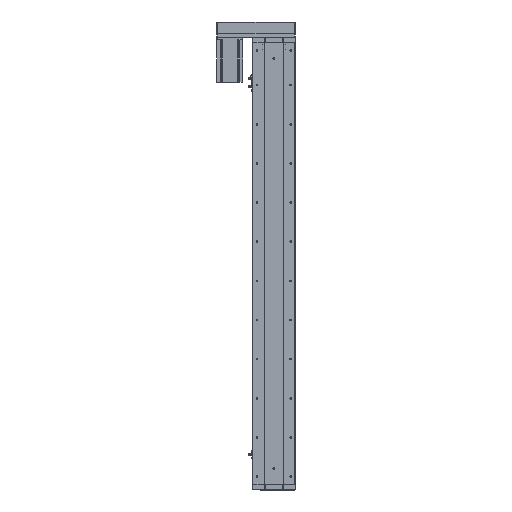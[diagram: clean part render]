
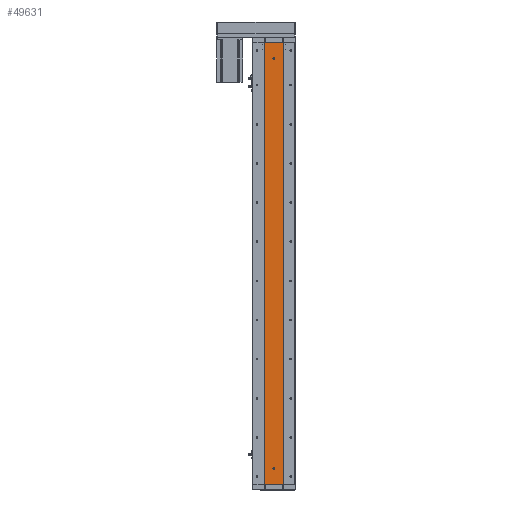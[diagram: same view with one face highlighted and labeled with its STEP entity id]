
A CAD part, left-side view. The second image highlights one B-rep face of the part: STEP entity #49631.
In plain terms, the highlighted planar face has unit normal (-1, 0, 0).
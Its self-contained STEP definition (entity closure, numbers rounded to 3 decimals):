
#31 = EDGE_CURVE ( 'NONE', #5174, #50369, #1143, .T. ) ;
#925 = EDGE_CURVE ( 'NONE', #20070, #23029, #2203, .T. ) ;
#1143 = LINE ( 'NONE', #37746, #9133 ) ;
#1599 = AXIS2_PLACEMENT_3D ( 'NONE', #10541, #38279, #14509 ) ;
#2188 = EDGE_LOOP ( 'NONE', ( #40908, #32762 ) ) ;
#2203 = CIRCLE ( 'NONE', #20146, 3. ) ;
#2397 = EDGE_LOOP ( 'NONE', ( #10596, #35068, #20834, #12746 ) ) ;
#2496 = DIRECTION ( 'NONE',  ( 0., 0., 1. ) ) ;
#3059 = CARTESIAN_POINT ( 'NONE',  ( -24.994, 29.785, 1356. ) ) ;
#3356 = ORIENTED_EDGE ( 'NONE', *, *, #43376, .F. ) ;
#3646 = DIRECTION ( 'NONE',  ( -1., 0., 0. ) ) ;
#4767 = FACE_BOUND ( 'NONE', #15355, .T. ) ;
#5174 = VERTEX_POINT ( 'NONE', #8795 ) ;
#6240 = DIRECTION ( 'NONE',  ( 1., 0., 0. ) ) ;
#8374 = CIRCLE ( 'NONE', #37580, 3. ) ;
#8509 = VECTOR ( 'NONE', #26764, 1000. ) ;
#8795 = CARTESIAN_POINT ( 'NONE',  ( -24.994, -29.785, 1356. ) ) ;
#9133 = VECTOR ( 'NONE', #13954, 1000. ) ;
#9840 = AXIS2_PLACEMENT_3D ( 'NONE', #21538, #49285, #25554 ) ;
#10541 = CARTESIAN_POINT ( 'NONE',  ( -24.994, 0., 1306. ) ) ;
#10596 = ORIENTED_EDGE ( 'NONE', *, *, #44207, .T. ) ;
#11252 = CARTESIAN_POINT ( 'NONE',  ( -24.994, 29.785, 1356. ) ) ;
#11759 = CARTESIAN_POINT ( 'NONE',  ( -24.994, 0., 53. ) ) ;
#12746 = ORIENTED_EDGE ( 'NONE', *, *, #13168, .T. ) ;
#13168 = EDGE_CURVE ( 'NONE', #47625, #21564, #49419, .T. ) ;
#13332 = CARTESIAN_POINT ( 'NONE',  ( -24.994, 29.785, 0. ) ) ;
#13954 = DIRECTION ( 'NONE',  ( 0., 0., -1. ) ) ;
#14034 = FACE_OUTER_BOUND ( 'NONE', #2397, .T. ) ;
#14509 = DIRECTION ( 'NONE',  ( 0., 0., 1. ) ) ;
#15231 = DIRECTION ( 'NONE',  ( 0., -1., 0. ) ) ;
#15355 = EDGE_LOOP ( 'NONE', ( #34850, #3356 ) ) ;
#15946 = DIRECTION ( 'NONE',  ( 0., -1., 0. ) ) ;
#20070 = VERTEX_POINT ( 'NONE', #11759 ) ;
#20146 = AXIS2_PLACEMENT_3D ( 'NONE', #49937, #26206, #2496 ) ;
#20834 = ORIENTED_EDGE ( 'NONE', *, *, #49793, .F. ) ;
#20844 = VECTOR ( 'NONE', #15946, 1000. ) ;
#20957 = EDGE_CURVE ( 'NONE', #48570, #38566, #37896, .T. ) ;
#21538 = CARTESIAN_POINT ( 'NONE',  ( -24.994, 0., 1306. ) ) ;
#21564 = VERTEX_POINT ( 'NONE', #13332 ) ;
#21636 = CARTESIAN_POINT ( 'NONE',  ( -24.994, 0., 1303. ) ) ;
#23029 = VERTEX_POINT ( 'NONE', #31238 ) ;
#25554 = DIRECTION ( 'NONE',  ( 0., 0., 1. ) ) ;
#26206 = DIRECTION ( 'NONE',  ( -1., 0., 0. ) ) ;
#26764 = DIRECTION ( 'NONE',  ( 0., 0., -1. ) ) ;
#27392 = CARTESIAN_POINT ( 'NONE',  ( -24.994, 0., 50. ) ) ;
#29851 = PLANE ( 'NONE',  #30284 ) ;
#30049 = CARTESIAN_POINT ( 'NONE',  ( -24.994, 29.785, 1356. ) ) ;
#30284 = AXIS2_PLACEMENT_3D ( 'NONE', #30049, #6240, #34039 ) ;
#31238 = CARTESIAN_POINT ( 'NONE',  ( -24.994, 0., 47. ) ) ;
#31399 = DIRECTION ( 'NONE',  ( 0., 0., 1. ) ) ;
#32762 = ORIENTED_EDGE ( 'NONE', *, *, #41609, .F. ) ;
#34039 = DIRECTION ( 'NONE',  ( 0., 0., -1. ) ) ;
#34224 = CIRCLE ( 'NONE', #1599, 3. ) ;
#34322 = CARTESIAN_POINT ( 'NONE',  ( -24.994, -29.785, 0. ) ) ;
#34850 = ORIENTED_EDGE ( 'NONE', *, *, #925, .F. ) ;
#35068 = ORIENTED_EDGE ( 'NONE', *, *, #31, .F. ) ;
#37580 = AXIS2_PLACEMENT_3D ( 'NONE', #27392, #3646, #31399 ) ;
#37746 = CARTESIAN_POINT ( 'NONE',  ( -24.994, -29.785, 1356. ) ) ;
#37896 = CIRCLE ( 'NONE', #9840, 3. ) ;
#38279 = DIRECTION ( 'NONE',  ( -1., 0., 0. ) ) ;
#38566 = VERTEX_POINT ( 'NONE', #21636 ) ;
#38848 = VECTOR ( 'NONE', #15231, 1000. ) ;
#39681 = CARTESIAN_POINT ( 'NONE',  ( -24.994, 29.785, 0. ) ) ;
#40908 = ORIENTED_EDGE ( 'NONE', *, *, #20957, .F. ) ;
#41609 = EDGE_CURVE ( 'NONE', #38566, #48570, #34224, .T. ) ;
#43376 = EDGE_CURVE ( 'NONE', #23029, #20070, #8374, .T. ) ;
#43786 = CARTESIAN_POINT ( 'NONE',  ( -24.994, 0., 1309. ) ) ;
#44207 = EDGE_CURVE ( 'NONE', #21564, #50369, #51240, .T. ) ;
#44431 = FACE_BOUND ( 'NONE', #2188, .T. ) ;
#47625 = VERTEX_POINT ( 'NONE', #49257 ) ;
#48570 = VERTEX_POINT ( 'NONE', #43786 ) ;
#49257 = CARTESIAN_POINT ( 'NONE',  ( -24.994, 29.785, 1356. ) ) ;
#49285 = DIRECTION ( 'NONE',  ( -1., 0., 0. ) ) ;
#49419 = LINE ( 'NONE', #3059, #8509 ) ;
#49631 = ADVANCED_FACE ( 'NONE', ( #44431, #4767, #14034 ), #29851, .F. ) ;
#49793 = EDGE_CURVE ( 'NONE', #47625, #5174, #50620, .T. ) ;
#49937 = CARTESIAN_POINT ( 'NONE',  ( -24.994, 0., 50. ) ) ;
#50369 = VERTEX_POINT ( 'NONE', #34322 ) ;
#50620 = LINE ( 'NONE', #11252, #38848 ) ;
#51240 = LINE ( 'NONE', #39681, #20844 ) ;
